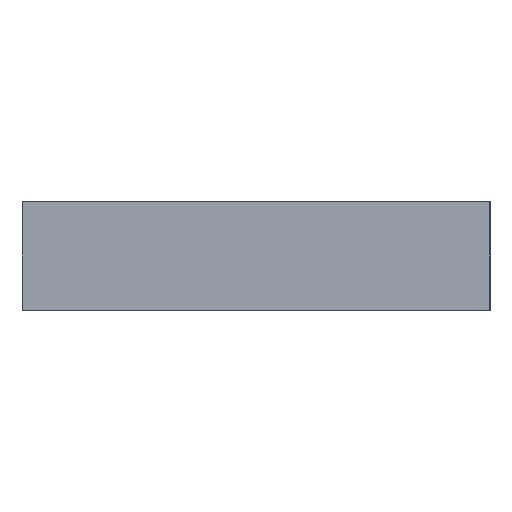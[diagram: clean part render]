
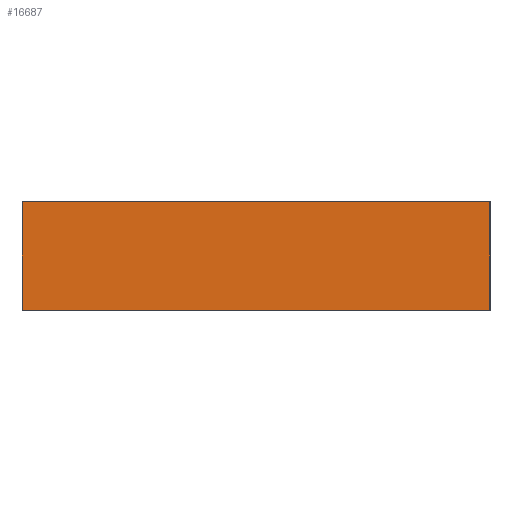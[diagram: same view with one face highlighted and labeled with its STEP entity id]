
A CAD part, left-side view. The second image highlights one B-rep face of the part: STEP entity #16687.
In plain terms, the highlighted planar face has unit normal (-1, 0, 0).
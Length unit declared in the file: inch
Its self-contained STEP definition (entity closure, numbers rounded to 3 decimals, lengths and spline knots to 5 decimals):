
#3 = DIRECTION ( 'NONE',  ( 0., 0., 1. ) ) ;
#179 = CARTESIAN_POINT ( 'NONE',  ( -21.96875, 0., -2.65625 ) ) ;
#367 = LINE ( 'NONE', #16593, #12638 ) ;
#1425 = PLANE ( 'NONE',  #2432 ) ;
#1654 = LINE ( 'NONE', #5628, #13233 ) ;
#2056 = EDGE_CURVE ( 'NONE', #12056, #6005, #367, .T. ) ;
#2432 = AXIS2_PLACEMENT_3D ( 'NONE', #179, #6818, #3 ) ;
#2753 = LINE ( 'NONE', #8237, #12940 ) ;
#3070 = DIRECTION ( 'NONE',  ( 0., -1., 0. ) ) ;
#3606 = CARTESIAN_POINT ( 'NONE',  ( -21.96875, 0., -2.65625 ) ) ;
#4671 = EDGE_CURVE ( 'NONE', #10486, #13448, #11571, .T. ) ;
#4938 = VECTOR ( 'NONE', #13003, 39.37008 ) ;
#5628 = CARTESIAN_POINT ( 'NONE',  ( -21.96875, 67.99885, -2.65625 ) ) ;
#6005 = VERTEX_POINT ( 'NONE', #7950 ) ;
#6008 = EDGE_LOOP ( 'NONE', ( #11797, #7157, #8161, #6066 ) ) ;
#6066 = ORIENTED_EDGE ( 'NONE', *, *, #12545, .T. ) ;
#6084 = CARTESIAN_POINT ( 'NONE',  ( -21.96875, 0., -2.65625 ) ) ;
#6818 = DIRECTION ( 'NONE',  ( 1., 0., 0. ) ) ;
#6922 = DIRECTION ( 'NONE',  ( 0., 0., 1. ) ) ;
#7157 = ORIENTED_EDGE ( 'NONE', *, *, #12203, .T. ) ;
#7891 = CARTESIAN_POINT ( 'NONE',  ( -21.96875, 22.9375, -2.65625 ) ) ;
#7950 = CARTESIAN_POINT ( 'NONE',  ( -21.96875, 22.9375, 2.65625 ) ) ;
#8157 = DIRECTION ( 'NONE',  ( 0., 1., 0. ) ) ;
#8161 = ORIENTED_EDGE ( 'NONE', *, *, #2056, .F. ) ;
#8237 = CARTESIAN_POINT ( 'NONE',  ( -21.96875, -0.56278, 2.65625 ) ) ;
#10486 = VERTEX_POINT ( 'NONE', #6084 ) ;
#11571 = LINE ( 'NONE', #3606, #4938 ) ;
#11797 = ORIENTED_EDGE ( 'NONE', *, *, #4671, .T. ) ;
#12056 = VERTEX_POINT ( 'NONE', #7891 ) ;
#12203 = EDGE_CURVE ( 'NONE', #13448, #6005, #2753, .T. ) ;
#12545 = EDGE_CURVE ( 'NONE', #12056, #10486, #1654, .T. ) ;
#12638 = VECTOR ( 'NONE', #6922, 39.37008 ) ;
#12940 = VECTOR ( 'NONE', #8157, 39.37008 ) ;
#13003 = DIRECTION ( 'NONE',  ( 0., 0., 1. ) ) ;
#13233 = VECTOR ( 'NONE', #3070, 39.37008 ) ;
#13448 = VERTEX_POINT ( 'NONE', #15519 ) ;
#14889 = FACE_OUTER_BOUND ( 'NONE', #6008, .T. ) ;
#15519 = CARTESIAN_POINT ( 'NONE',  ( -21.96875, 0., 2.65625 ) ) ;
#16593 = CARTESIAN_POINT ( 'NONE',  ( -21.96875, 22.9375, -2.65625 ) ) ;
#16687 = ADVANCED_FACE ( 'NONE', ( #14889 ), #1425, .F. ) ;
